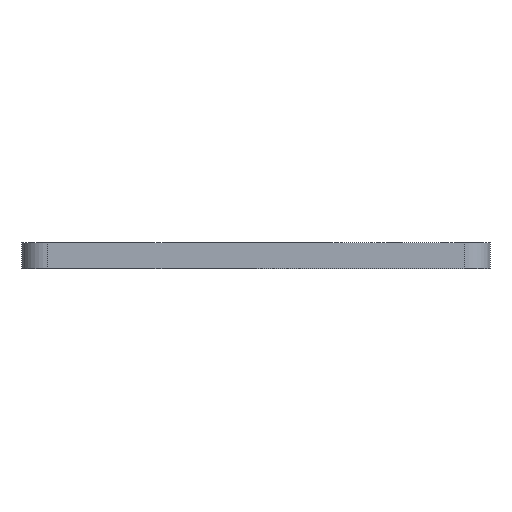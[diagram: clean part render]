
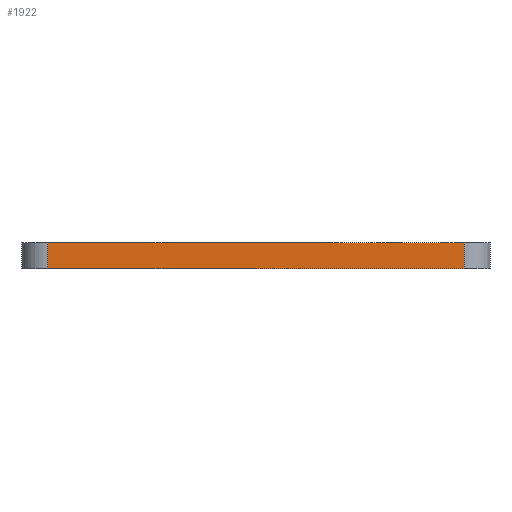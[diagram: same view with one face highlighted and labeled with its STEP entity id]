
A CAD part, left-side view. The second image highlights one B-rep face of the part: STEP entity #1922.
In plain terms, the highlighted planar face has unit normal (-1, 0, 0).
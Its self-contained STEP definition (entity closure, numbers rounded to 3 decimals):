
#44 = PLANE('',#45);
#45 = AXIS2_PLACEMENT_3D('',#46,#47,#48);
#46 = CARTESIAN_POINT('',(0.,0.,0.));
#47 = DIRECTION('',(0.,0.,1.));
#48 = DIRECTION('',(1.,0.,-0.));
#72 = CYLINDRICAL_SURFACE('',#73,3.);
#73 = AXIS2_PLACEMENT_3D('',#74,#75,#76);
#74 = CARTESIAN_POINT('',(-28.,-24.,0.));
#75 = DIRECTION('',(0.,0.,1.));
#76 = DIRECTION('',(0.,-1.,0.));
#100 = PLANE('',#101);
#101 = AXIS2_PLACEMENT_3D('',#102,#103,#104);
#102 = CARTESIAN_POINT('',(0.,0.,3.));
#103 = DIRECTION('',(0.,0.,1.));
#104 = DIRECTION('',(1.,0.,-0.));
#252 = VERTEX_POINT('',#253);
#253 = CARTESIAN_POINT('',(-31.,24.,0.));
#268 = CYLINDRICAL_SURFACE('',#269,3.);
#269 = AXIS2_PLACEMENT_3D('',#270,#271,#272);
#270 = CARTESIAN_POINT('',(-28.,24.,0.));
#271 = DIRECTION('',(0.,0.,1.));
#272 = DIRECTION('',(-0.,1.,0.));
#280 = EDGE_CURVE('',#252,#281,#283,.T.);
#281 = VERTEX_POINT('',#282);
#282 = CARTESIAN_POINT('',(-31.,-24.,0.));
#283 = SURFACE_CURVE('',#284,(#288,#295),.PCURVE_S1.);
#284 = LINE('',#285,#286);
#285 = CARTESIAN_POINT('',(-31.,27.,0.));
#286 = VECTOR('',#287,1.);
#287 = DIRECTION('',(0.,-1.,0.));
#288 = PCURVE('',#44,#289);
#289 = DEFINITIONAL_REPRESENTATION('',(#290),#294);
#290 = LINE('',#291,#292);
#291 = CARTESIAN_POINT('',(-31.,27.));
#292 = VECTOR('',#293,1.);
#293 = DIRECTION('',(0.,-1.));
#294 = ( GEOMETRIC_REPRESENTATION_CONTEXT(2) 
PARAMETRIC_REPRESENTATION_CONTEXT() REPRESENTATION_CONTEXT('2D SPACE',''
  ) );
#295 = PCURVE('',#296,#301);
#296 = PLANE('',#297);
#297 = AXIS2_PLACEMENT_3D('',#298,#299,#300);
#298 = CARTESIAN_POINT('',(-31.,27.,0.));
#299 = DIRECTION('',(1.,0.,-0.));
#300 = DIRECTION('',(0.,-1.,0.));
#301 = DEFINITIONAL_REPRESENTATION('',(#302),#306);
#302 = LINE('',#303,#304);
#303 = CARTESIAN_POINT('',(0.,0.));
#304 = VECTOR('',#305,1.);
#305 = DIRECTION('',(1.,0.));
#306 = ( GEOMETRIC_REPRESENTATION_CONTEXT(2) 
PARAMETRIC_REPRESENTATION_CONTEXT() REPRESENTATION_CONTEXT('2D SPACE',''
  ) );
#1080 = EDGE_CURVE('',#281,#1081,#1083,.T.);
#1081 = VERTEX_POINT('',#1082);
#1082 = CARTESIAN_POINT('',(-31.,-24.,3.));
#1083 = SURFACE_CURVE('',#1084,(#1088,#1095),.PCURVE_S1.);
#1084 = LINE('',#1085,#1086);
#1085 = CARTESIAN_POINT('',(-31.,-24.,0.));
#1086 = VECTOR('',#1087,1.);
#1087 = DIRECTION('',(0.,0.,1.));
#1088 = PCURVE('',#72,#1089);
#1089 = DEFINITIONAL_REPRESENTATION('',(#1090),#1094);
#1090 = LINE('',#1091,#1092);
#1091 = CARTESIAN_POINT('',(-1.571,0.));
#1092 = VECTOR('',#1093,1.);
#1093 = DIRECTION('',(-0.,1.));
#1094 = ( GEOMETRIC_REPRESENTATION_CONTEXT(2) 
PARAMETRIC_REPRESENTATION_CONTEXT() REPRESENTATION_CONTEXT('2D SPACE',''
  ) );
#1095 = PCURVE('',#296,#1096);
#1096 = DEFINITIONAL_REPRESENTATION('',(#1097),#1101);
#1097 = LINE('',#1098,#1099);
#1098 = CARTESIAN_POINT('',(51.,0.));
#1099 = VECTOR('',#1100,1.);
#1100 = DIRECTION('',(0.,-1.));
#1101 = ( GEOMETRIC_REPRESENTATION_CONTEXT(2) 
PARAMETRIC_REPRESENTATION_CONTEXT() REPRESENTATION_CONTEXT('2D SPACE',''
  ) );
#1256 = VERTEX_POINT('',#1257);
#1257 = CARTESIAN_POINT('',(-31.,24.,3.));
#1279 = EDGE_CURVE('',#1256,#1081,#1280,.T.);
#1280 = SURFACE_CURVE('',#1281,(#1285,#1292),.PCURVE_S1.);
#1281 = LINE('',#1282,#1283);
#1282 = CARTESIAN_POINT('',(-31.,27.,3.));
#1283 = VECTOR('',#1284,1.);
#1284 = DIRECTION('',(0.,-1.,0.));
#1285 = PCURVE('',#100,#1286);
#1286 = DEFINITIONAL_REPRESENTATION('',(#1287),#1291);
#1287 = LINE('',#1288,#1289);
#1288 = CARTESIAN_POINT('',(-31.,27.));
#1289 = VECTOR('',#1290,1.);
#1290 = DIRECTION('',(0.,-1.));
#1291 = ( GEOMETRIC_REPRESENTATION_CONTEXT(2) 
PARAMETRIC_REPRESENTATION_CONTEXT() REPRESENTATION_CONTEXT('2D SPACE',''
  ) );
#1292 = PCURVE('',#296,#1293);
#1293 = DEFINITIONAL_REPRESENTATION('',(#1294),#1298);
#1294 = LINE('',#1295,#1296);
#1295 = CARTESIAN_POINT('',(0.,-3.));
#1296 = VECTOR('',#1297,1.);
#1297 = DIRECTION('',(1.,0.));
#1298 = ( GEOMETRIC_REPRESENTATION_CONTEXT(2) 
PARAMETRIC_REPRESENTATION_CONTEXT() REPRESENTATION_CONTEXT('2D SPACE',''
  ) );
#1922 = ADVANCED_FACE('',(#1923),#296,.F.);
#1923 = FACE_BOUND('',#1924,.F.);
#1924 = EDGE_LOOP('',(#1925,#1926,#1947,#1948));
#1925 = ORIENTED_EDGE('',*,*,#280,.F.);
#1926 = ORIENTED_EDGE('',*,*,#1927,.T.);
#1927 = EDGE_CURVE('',#252,#1256,#1928,.T.);
#1928 = SURFACE_CURVE('',#1929,(#1933,#1940),.PCURVE_S1.);
#1929 = LINE('',#1930,#1931);
#1930 = CARTESIAN_POINT('',(-31.,24.,0.));
#1931 = VECTOR('',#1932,1.);
#1932 = DIRECTION('',(0.,0.,1.));
#1933 = PCURVE('',#296,#1934);
#1934 = DEFINITIONAL_REPRESENTATION('',(#1935),#1939);
#1935 = LINE('',#1936,#1937);
#1936 = CARTESIAN_POINT('',(3.,0.));
#1937 = VECTOR('',#1938,1.);
#1938 = DIRECTION('',(0.,-1.));
#1939 = ( GEOMETRIC_REPRESENTATION_CONTEXT(2) 
PARAMETRIC_REPRESENTATION_CONTEXT() REPRESENTATION_CONTEXT('2D SPACE',''
  ) );
#1940 = PCURVE('',#268,#1941);
#1941 = DEFINITIONAL_REPRESENTATION('',(#1942),#1946);
#1942 = LINE('',#1943,#1944);
#1943 = CARTESIAN_POINT('',(1.571,0.));
#1944 = VECTOR('',#1945,1.);
#1945 = DIRECTION('',(0.,1.));
#1946 = ( GEOMETRIC_REPRESENTATION_CONTEXT(2) 
PARAMETRIC_REPRESENTATION_CONTEXT() REPRESENTATION_CONTEXT('2D SPACE',''
  ) );
#1947 = ORIENTED_EDGE('',*,*,#1279,.T.);
#1948 = ORIENTED_EDGE('',*,*,#1080,.F.);
